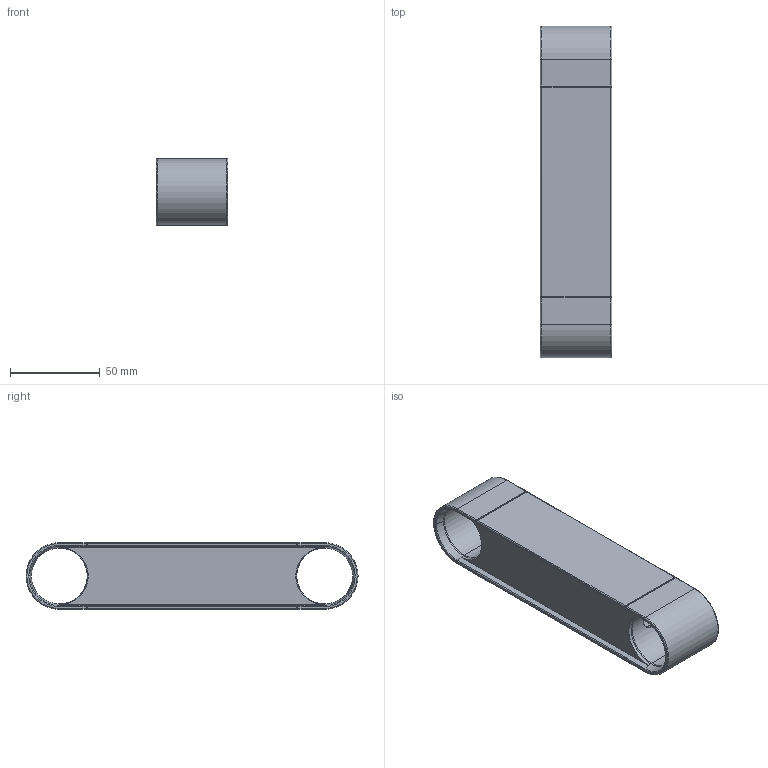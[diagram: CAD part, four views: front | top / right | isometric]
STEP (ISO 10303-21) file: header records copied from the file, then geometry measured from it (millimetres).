
FILE_DESCRIPTION (( 'STEP AP214' ), '1' );
FILE_NAME ('ACDISTSMXVEXXXX.STEP', '2023-08-28T15:22:31', ( '' ), ( '' ), 'SwSTEP 2.0', 'SolidWorks 2023', '' );
FILE_SCHEMA (( 'AUTOMOTIVE_DESIGN' ));
Length unit declared in the file: millimetre
Products named in the file (2): ACDISTSMXVEXXXX; WSCP2E0021-1400-01
Assembly tree (1 placements, depth 2):
  ACDISTSMXVEXXXX
    WSCP2E0021-1400-01
Bounding box: 40 x 185.2 x 37.2 mm (x, y, z)
Volume: 53313.2 mm3; surface area: 56391.1 mm2
Topology: 1 solids, 1 shells, 722 faces, 1678 edges, 928 vertices
Faces by surface type: cylinder 232, bspline 218, torus 144, plane 94, cone 18, sphere 16
Entity records: 31682 total; most frequent: CARTESIAN_POINT 16978, ORIENTED_EDGE 3280, DIRECTION 2906, EDGE_CURVE 1640, AXIS2_PLACEMENT_3D 1218, VERTEX_POINT 924, EDGE_LOOP 722, FACE_OUTER_BOUND 718
